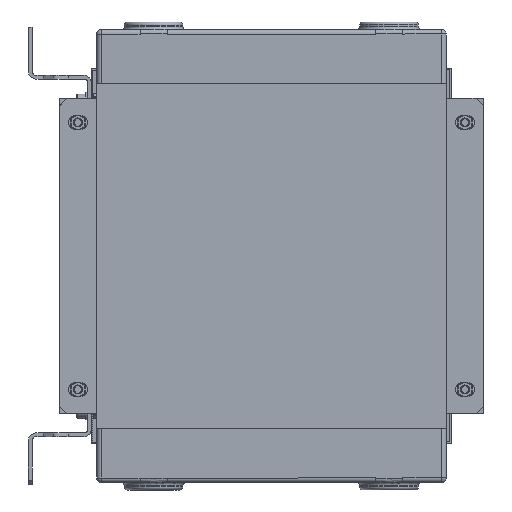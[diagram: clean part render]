
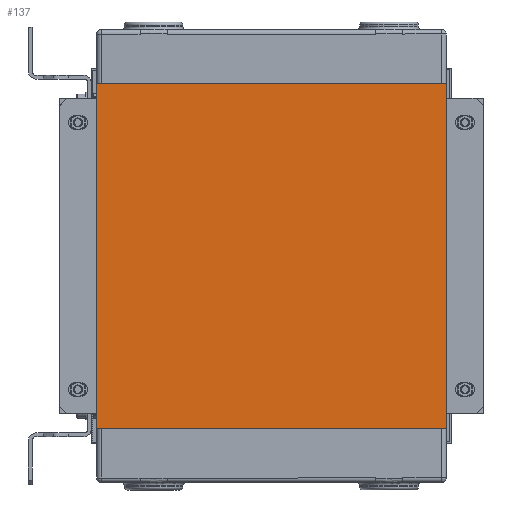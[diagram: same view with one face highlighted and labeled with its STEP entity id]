
A CAD part, front view. The second image highlights one B-rep face of the part: STEP entity #137.
In plain terms, the highlighted planar face has unit normal (0, -1, 0).
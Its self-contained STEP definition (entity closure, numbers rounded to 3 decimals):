
#7=CARTESIAN_POINT('',(479.981,144.513,220.));
#8=VERTEX_POINT('',#7);
#9=CARTESIAN_POINT('',(479.981,144.513,-10.));
#10=VERTEX_POINT('',#9);
#11=CARTESIAN_POINT('',(479.981,144.513,220.));
#12=DIRECTION('',(0.0,0.0,-1.0));
#13=VECTOR('',#12,230.0);
#14=LINE('',#11,#13);
#15=EDGE_CURVE('',#8,#10,#14,.T.);
#47=CARTESIAN_POINT('',(246.981,144.513,-10.));
#48=VERTEX_POINT('',#47);
#49=CARTESIAN_POINT('',(479.981,144.513,-10.));
#50=DIRECTION('',(-1.0,0.0,0.0));
#51=VECTOR('',#50,233.);
#52=LINE('',#49,#51);
#53=EDGE_CURVE('',#10,#48,#52,.T.);
#78=CARTESIAN_POINT('',(246.981,144.513,220.));
#79=VERTEX_POINT('',#78);
#80=CARTESIAN_POINT('',(246.981,144.513,-10.));
#81=DIRECTION('',(0.0,0.0,1.0));
#82=VECTOR('',#81,230.0);
#83=LINE('',#80,#82);
#84=EDGE_CURVE('',#48,#79,#83,.T.);
#109=CARTESIAN_POINT('',(246.981,144.513,220.));
#110=DIRECTION('',(1.0,0.0,0.0));
#111=VECTOR('',#110,233.0);
#112=LINE('',#109,#111);
#113=EDGE_CURVE('',#79,#8,#112,.T.);
#126=CARTESIAN_POINT('',(503.281,144.513,243.));
#127=DIRECTION('',(0.0,1.0,0.0));
#128=DIRECTION('',(0.0,0.0,-1.0));
#129=AXIS2_PLACEMENT_3D('',#126,#127,#128);
#130=PLANE('',#129);
#131=ORIENTED_EDGE('',*,*,#113,.F.);
#132=ORIENTED_EDGE('',*,*,#84,.F.);
#133=ORIENTED_EDGE('',*,*,#53,.F.);
#134=ORIENTED_EDGE('',*,*,#15,.F.);
#135=EDGE_LOOP('',(#131,#132,#133,#134));
#136=FACE_OUTER_BOUND('',#135,.T.);
#137=ADVANCED_FACE('',(#136),#130,.F.);
